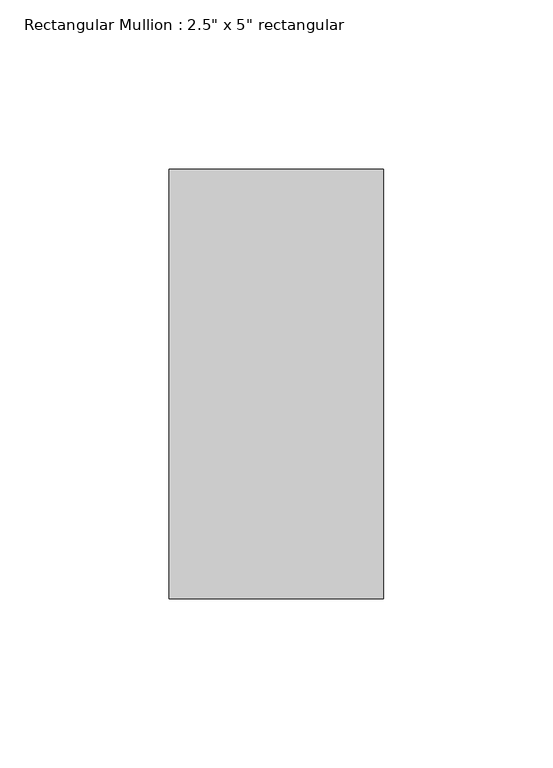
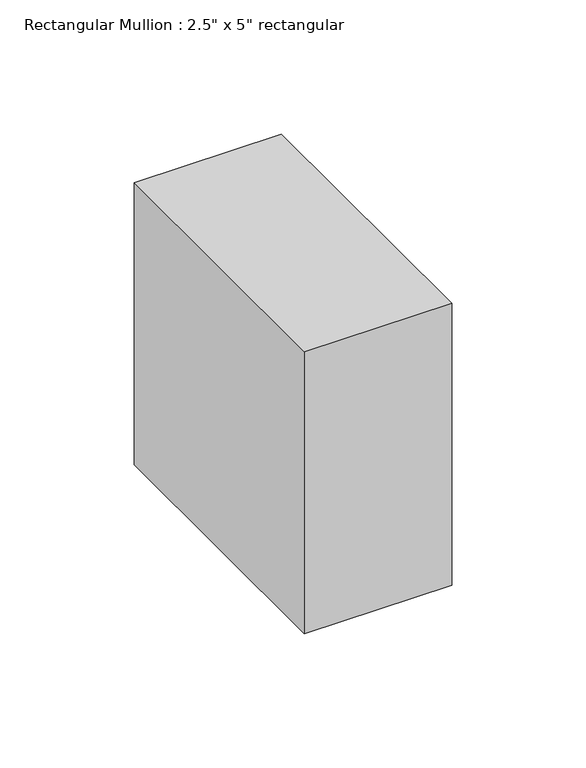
"""IFC4 building model written with IfcOpenShell, lengths in millimetres: member geometry."""

import ifcopenshell
import ifcopenshell.guid

model = None  # the IFC model being written
_history = None  # IfcOwnerHistory: only IFC2X3 demands one
_inside = {}  # id of a spatial element -> (the spatial element, [elements in it])
_under = {}  # id of a project, library or spatial element -> (it, [spatial elements below it])
_declared = {}  # id of a project -> (the project, [libraries it declares])
_typed = {}  # id of a type object -> (the type object, [elements of that type])
_made_of = {}  # id of a material, layer set ... -> (it, [elements and type objects made of it])


def new_model(schema):
    """Start an empty IFC model of exactly this schema.

    Asked for "IFC4X3", IfcOpenShell would pick the latest addendum, in which some entities
    have other attributes; the version numbers below select the first issue.
    IFC2X3 requires an IfcOwnerHistory on every rooted entity: one is made here for all.
    """
    global model, _history
    if schema == "IFC4X3":
        model = ifcopenshell.file(schema_version=(4, 3, 0, 0))
    else:
        model = ifcopenshell.file(schema=schema)
    _inside.clear()
    _under.clear()
    _declared.clear()
    _typed.clear()
    _made_of.clear()
    _history = None
    if model.schema == "IFC2X3":
        org = make("IfcOrganization", Name="unknown")
        user = make(
            "IfcPersonAndOrganization",
            ThePerson=make("IfcPerson", FamilyName="unknown"),
            TheOrganization=org,
        )
        app = make(
            "IfcApplication",
            ApplicationDeveloper=org,
            Version="unknown",
            ApplicationFullName="unknown",
            ApplicationIdentifier="unknown",
        )
        _history = make(
            "IfcOwnerHistory",
            OwningUser=user,
            OwningApplication=app,
            ChangeAction="ADDED",
            CreationDate=0,
        )
    return model


def make(cls, **values):
    """One entity of the class cls with the attributes given. An attribute that is None is left unset."""
    return model.create_entity(
        cls, **{name: value for name, value in values.items() if value is not None}
    )


def rooted(cls, **values):
    """An entity with a GlobalId (a new one), such as an element, a storey or a relation."""
    return make(cls, GlobalId=ifcopenshell.guid.new(), OwnerHistory=_history, **values)


def si_unit(unit_type, name, prefix=None):
    """IfcSIUnit, for example si_unit("LENGTHUNIT", "METRE", prefix="MILLI")."""
    return make("IfcSIUnit", UnitType=unit_type, Prefix=prefix, Name=name)


def assignment(units):
    """IfcUnitAssignment: the units of a project."""
    return None if units is None else make("IfcUnitAssignment", Units=units)


def point(xyz):
    """IfcCartesianPoint."""
    return None if xyz is None else make("IfcCartesianPoint", Coordinates=xyz)


def direction(xyz):
    """IfcDirection."""
    return None if xyz is None else make("IfcDirection", DirectionRatios=xyz)


def frame(location, z_axis=None, x_axis=None):
    """IfcAxis2Placement3D, a coordinate frame: its origin and axes. An axis left out is left unset."""
    return make(
        "IfcAxis2Placement3D",
        Location=point(location),
        Axis=direction(z_axis),
        RefDirection=direction(x_axis),
    )


def origin():
    """The frame at (0, 0, 0) with its axes left unset."""
    return frame((0.0, 0.0, 0.0))


def place(relative_to, where):
    """IfcLocalPlacement: puts the frame where relative to a parent placement (None: the world)."""
    return make(
        "IfcLocalPlacement", PlacementRelTo=relative_to, RelativePlacement=where
    )


def context(
    kind, dimensions, precision=None, world=None, true_north=None, identifier=None
):
    """IfcGeometricRepresentationContext, for example the 3D "Model" context."""
    return make(
        "IfcGeometricRepresentationContext",
        ContextIdentifier=identifier,
        ContextType=kind,
        CoordinateSpaceDimension=dimensions,
        Precision=precision,
        WorldCoordinateSystem=world,
        TrueNorth=true_north,
    )


def project(units=None, contexts=None):
    """IfcProject with its units and contexts."""
    return rooted(
        "IfcProject",
        Name="project",
        RepresentationContexts=contexts,
        UnitsInContext=assignment(units),
    )


def spatial(cls, under=None, at=None, **own):
    """A site, building, storey or space (cls), placed at a placement, below another one or the project."""
    s = rooted(cls, ObjectPlacement=at, **own)
    if under is not None:
        _under.setdefault(under.id(), (under, []))[1].append(s)
    return s


def polyline(points):
    """IfcPolyline through the points."""
    return make("IfcPolyline", Points=[point(p) for p in points])


def outline(outer, holes=None, kind="AREA"):
    """IfcArbitraryClosedProfileDef: a profile drawn as a closed curve; with holes, ...WithVoids."""
    if holes is None:
        return make("IfcArbitraryClosedProfileDef", ProfileType=kind, OuterCurve=outer)
    return make(
        "IfcArbitraryProfileDefWithVoids",
        ProfileType=kind,
        OuterCurve=outer,
        InnerCurves=holes,
    )


def extrude(swept, where, along, depth):
    """IfcExtrudedAreaSolid: the profile swept, set in the frame where, extruded along a direction by depth."""
    return make(
        "IfcExtrudedAreaSolid",
        SweptArea=swept,
        Position=where,
        ExtrudedDirection=direction(along),
        Depth=depth,
    )


def shape(context_of_items, identifier, shape_type, items):
    """IfcShapeRepresentation: the items that make up one representation, for example the "Body"."""
    return make(
        "IfcShapeRepresentation",
        ContextOfItems=context_of_items,
        RepresentationIdentifier=identifier,
        RepresentationType=shape_type,
        Items=items,
    )


def source(mapping_origin, context_of_items, identifier, shape_type, items):
    """IfcRepresentationMap: a shape defined once, which mapped items show again and again."""
    return make(
        "IfcRepresentationMap",
        MappingOrigin=mapping_origin,
        MappedRepresentation=shape(context_of_items, identifier, shape_type, items),
    )


def transform(
    local_origin,
    x_axis=None,
    y_axis=None,
    z_axis=None,
    scale=None,
    scale2=None,
    scale3=None,
    uniform=True,
):
    """IfcCartesianTransformationOperator3D, or its non-uniform kind. x_axis, y_axis, z_axis: its Axis1, 2, 3."""
    if uniform:
        return make(
            "IfcCartesianTransformationOperator3D",
            Axis1=direction(x_axis),
            Axis2=direction(y_axis),
            LocalOrigin=point(local_origin),
            Scale=scale,
            Axis3=direction(z_axis),
        )
    return make(
        "IfcCartesianTransformationOperator3DnonUniform",
        Axis1=direction(x_axis),
        Axis2=direction(y_axis),
        LocalOrigin=point(local_origin),
        Scale=scale,
        Axis3=direction(z_axis),
        Scale2=scale2,
        Scale3=scale3,
    )


def mapped(mapping_source, mapping_target):
    """IfcMappedItem: shows the shape of a source again, moved by a transform."""
    return make(
        "IfcMappedItem", MappingSource=mapping_source, MappingTarget=mapping_target
    )


def made_of(thing, what):
    """Note that an element or type object is made of a material, layer set ...; save() writes the relation."""
    if what is not None:
        _made_of.setdefault(what.id(), (what, []))[1].append(thing)
    return thing


def element(
    cls,
    number,
    at=None,
    inside=None,
    cuts=None,
    type_object=None,
    material=None,
    context=None,
    identifier="Body",
    shape_type=None,
    held_by="IfcProductDefinitionShape",
    body=None,
    shapes=None,
    **own,
):
    """One element of the class cls, such as IfcWall. Its Tag is "e" and its number.

    at: its placement. inside: the storey or other place that contains it. cuts: it is an
    opening in that element (IfcRelVoidsElement). A single representation is given by context,
    identifier, shape_type and body (its items); several are given by shapes. held_by: the class
    of the entity that holds the representations. save() writes the other relations.
    """
    e = rooted(cls, Tag="e%d" % number, ObjectPlacement=at, **own)
    if body is not None:
        shapes = [shape(context, identifier, shape_type, body)]
    if shapes is not None:
        e.Representation = make(held_by, Representations=shapes)
    if inside is not None:
        _inside.setdefault(inside.id(), (inside, []))[1].append(e)
    if cuts is not None:
        rooted(
            "IfcRelVoidsElement", RelatingBuildingElement=cuts, RelatedOpeningElement=e
        )
    if type_object is not None:
        _typed.setdefault(type_object.id(), (type_object, []))[1].append(e)
    return made_of(e, material)


def aggregate(whole, parts):
    """IfcRelAggregates: a whole, such as a stair, and the parts it consists of."""
    return rooted("IfcRelAggregates", RelatingObject=whole, RelatedObjects=parts)


def save(model, path):
    """Write the relations noted so far, then the file.

    IfcRelAggregates (storeys below a building ...), IfcRelContainedInSpatialStructure (elements
    in a storey), IfcRelDefinesByType, IfcRelAssociatesMaterial and IfcRelDeclares: one each for
    every whole, place, type object, material and project.
    """
    for whole, parts in _under.values():
        aggregate(whole, parts)
    for where, things in _inside.values():
        rooted(
            "IfcRelContainedInSpatialStructure",
            RelatedElements=things,
            RelatingStructure=where,
        )
    for kind, things in _typed.values():
        rooted("IfcRelDefinesByType", RelatedObjects=things, RelatingType=kind)
    for what, things in _made_of.values():
        rooted("IfcRelAssociatesMaterial", RelatedObjects=things, RelatingMaterial=what)
    for by, libraries in _declared.values():
        rooted("IfcRelDeclares", RelatingContext=by, RelatedDefinitions=libraries)
    model.write(path)


def member_faf7298b(model_context):
    return source(origin(), model_context, "Body", "SweptSolid", [
        extrude(outline(polyline([(31.75, 63.5), (31.75, -63.5), (-31.75, -63.5), (-31.75, 63.5), (31.75, 63.5)])), frame((0.0, 0.0, -128.4599843), z_axis=(0.0, 0.0, 1.0), x_axis=(1.0, 0.0, 0.0)), (0.0, 0.0, 1.0), 128.4599843),
    ])


if __name__ == "__main__":
    model = new_model("IFC4")
    model_context = context("Model", 3, world=origin())
    ifc_project = project(units=[si_unit("LENGTHUNIT", "METRE", prefix="MILLI")], contexts=[model_context])
    site = spatial("IfcSite", under=ifc_project)
    building = spatial("IfcBuilding", under=site)
    placement = place(None, origin())
    member_shape = member_faf7298b(model_context)
    element("IfcMember", 1, ObjectType="Rectangular Mullion : 2.5\" x 5\" rectangular", at=placement, inside=building, context=model_context, shape_type="MappedRepresentation", body=[
        mapped(member_shape, transform((0.0, 0.0, 0.0), x_axis=(1.0, 0.0, 0.0), y_axis=(0.0, 1.0, 0.0), z_axis=(0.0, 0.0, 1.0))),
    ])
    save(model, "model.ifc")
